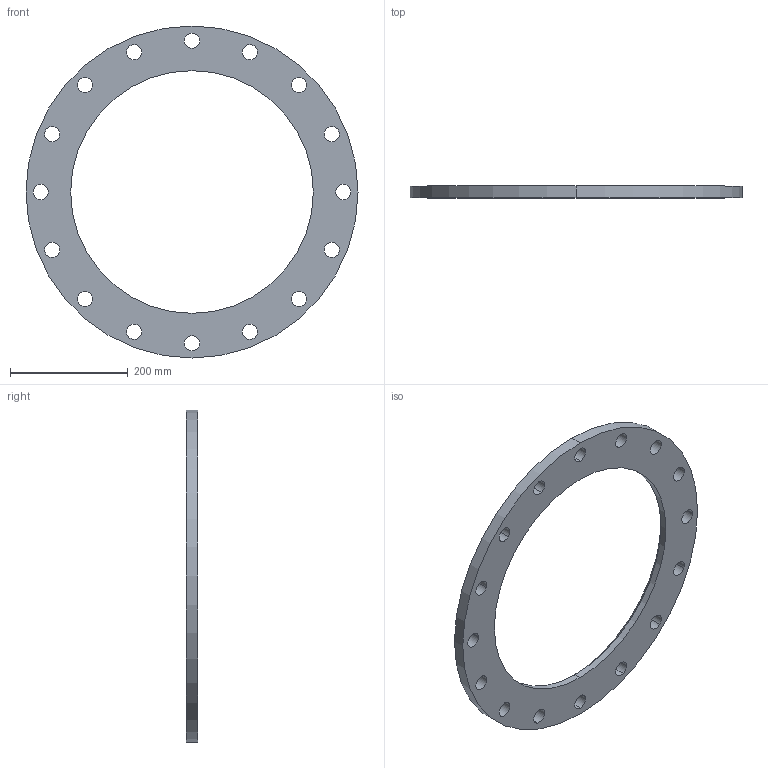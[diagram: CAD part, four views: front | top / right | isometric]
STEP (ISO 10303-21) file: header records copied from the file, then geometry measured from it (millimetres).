
FILE_DESCRIPTION (( 'STEP AP203' ), '1' );
FILE_NAME ('3D_R185_PN10_DN400_176641250_176642250.STEP', '2024-07-10T07:24:42', ( '' ), ( '' ), 'SwSTEP 2.0', 'SolidWorks 2024', '' );
FILE_SCHEMA (( 'CONFIG_CONTROL_DESIGN' ));
Length unit declared in the file: millimetre
Products named in the file (1): 3D_R185_PN10_DN400_176641250_176642250
Bounding box: 565 x 20 x 565 mm (x, y, z)
Volume: 2123130.2 mm3; surface area: 298109.1 mm2
Topology: 1 solids, 1 shells, 40 faces, 112 edges, 74 vertices
Faces by surface type: cylinder 36, cone 2, plane 2
Entity records: 1479 total; most frequent: DIRECTION 268, CARTESIAN_POINT 227, ORIENTED_EDGE 224, AXIS2_PLACEMENT_3D 115, EDGE_CURVE 112, EDGE_LOOP 74, CIRCLE 74, VERTEX_POINT 74
